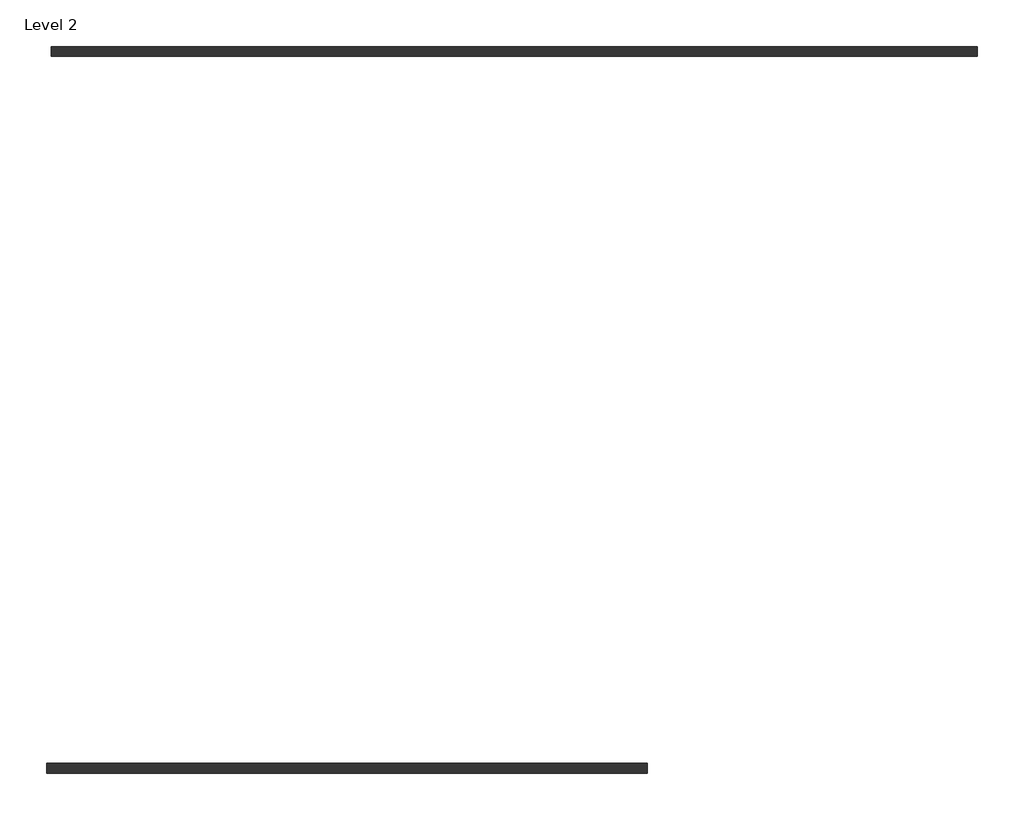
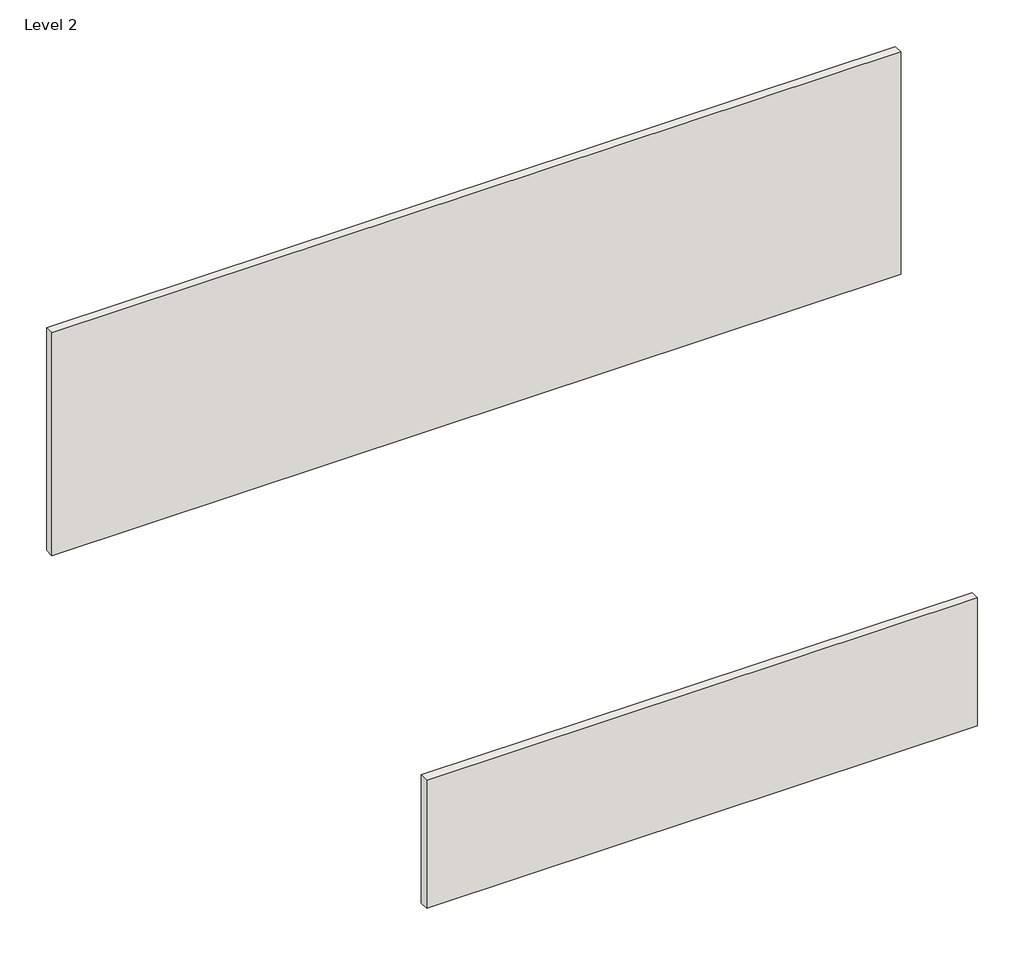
# One storey: 2 walls.
"""IFC4 building model written with IfcOpenShell, lengths in millimetres."""

import ifcopenshell
import ifcopenshell.guid

model = None  # the IFC model being written
_history = None  # IfcOwnerHistory: only IFC2X3 demands one
_inside = {}  # id of a spatial element -> (the spatial element, [elements in it])
_under = {}  # id of a project, library or spatial element -> (it, [spatial elements below it])
_declared = {}  # id of a project -> (the project, [libraries it declares])
_typed = {}  # id of a type object -> (the type object, [elements of that type])
_made_of = {}  # id of a material, layer set ... -> (it, [elements and type objects made of it])


def new_model(schema):
    """Start an empty IFC model of exactly this schema.

    Asked for "IFC4X3", IfcOpenShell would pick the latest addendum, in which some entities
    have other attributes; the version numbers below select the first issue.
    IFC2X3 requires an IfcOwnerHistory on every rooted entity: one is made here for all.
    """
    global model, _history
    if schema == "IFC4X3":
        model = ifcopenshell.file(schema_version=(4, 3, 0, 0))
    else:
        model = ifcopenshell.file(schema=schema)
    _inside.clear()
    _under.clear()
    _declared.clear()
    _typed.clear()
    _made_of.clear()
    _history = None
    if model.schema == "IFC2X3":
        org = make("IfcOrganization", Name="unknown")
        user = make(
            "IfcPersonAndOrganization",
            ThePerson=make("IfcPerson", FamilyName="unknown"),
            TheOrganization=org,
        )
        app = make(
            "IfcApplication",
            ApplicationDeveloper=org,
            Version="unknown",
            ApplicationFullName="unknown",
            ApplicationIdentifier="unknown",
        )
        _history = make(
            "IfcOwnerHistory",
            OwningUser=user,
            OwningApplication=app,
            ChangeAction="ADDED",
            CreationDate=0,
        )
    return model


def make(cls, **values):
    """One entity of the class cls with the attributes given. An attribute that is None is left unset."""
    return model.create_entity(
        cls, **{name: value for name, value in values.items() if value is not None}
    )


def rooted(cls, **values):
    """An entity with a GlobalId (a new one), such as an element, a storey or a relation."""
    return make(cls, GlobalId=ifcopenshell.guid.new(), OwnerHistory=_history, **values)


def si_unit(unit_type, name, prefix=None):
    """IfcSIUnit, for example si_unit("LENGTHUNIT", "METRE", prefix="MILLI")."""
    return make("IfcSIUnit", UnitType=unit_type, Prefix=prefix, Name=name)


def assignment(units):
    """IfcUnitAssignment: the units of a project."""
    return None if units is None else make("IfcUnitAssignment", Units=units)


def point(xyz):
    """IfcCartesianPoint."""
    return None if xyz is None else make("IfcCartesianPoint", Coordinates=xyz)


def direction(xyz):
    """IfcDirection."""
    return None if xyz is None else make("IfcDirection", DirectionRatios=xyz)


def frame(location, z_axis=None, x_axis=None):
    """IfcAxis2Placement3D, a coordinate frame: its origin and axes. An axis left out is left unset."""
    return make(
        "IfcAxis2Placement3D",
        Location=point(location),
        Axis=direction(z_axis),
        RefDirection=direction(x_axis),
    )


def origin():
    """The frame at (0, 0, 0) with its axes left unset."""
    return frame((0.0, 0.0, 0.0))


def place(relative_to, where):
    """IfcLocalPlacement: puts the frame where relative to a parent placement (None: the world)."""
    return make(
        "IfcLocalPlacement", PlacementRelTo=relative_to, RelativePlacement=where
    )


def context(
    kind, dimensions, precision=None, world=None, true_north=None, identifier=None
):
    """IfcGeometricRepresentationContext, for example the 3D "Model" context."""
    return make(
        "IfcGeometricRepresentationContext",
        ContextIdentifier=identifier,
        ContextType=kind,
        CoordinateSpaceDimension=dimensions,
        Precision=precision,
        WorldCoordinateSystem=world,
        TrueNorth=true_north,
    )


def project(units=None, contexts=None):
    """IfcProject with its units and contexts."""
    return rooted(
        "IfcProject",
        Name="project",
        RepresentationContexts=contexts,
        UnitsInContext=assignment(units),
    )


def spatial(cls, under=None, at=None, **own):
    """A site, building, storey or space (cls), placed at a placement, below another one or the project."""
    s = rooted(cls, ObjectPlacement=at, **own)
    if under is not None:
        _under.setdefault(under.id(), (under, []))[1].append(s)
    return s


def faces_of(points, faces, orient=None, outer=None):
    """IfcFace entities. A face is a list of loops; a loop is a list of indices into points, from 0.

    orient and outer hold one flag for each loop. By default every Orientation is true, the
    first loop of a face is its IfcFaceOuterBound and the others are IfcFaceBound.
    """
    made = []
    for i, loops in enumerate(faces):
        bounds = []
        for j, loop in enumerate(loops):
            is_outer = j == 0 if outer is None else outer[i][j]
            bounds.append(
                make(
                    "IfcFaceOuterBound" if is_outer else "IfcFaceBound",
                    Bound=make("IfcPolyLoop", Polygon=[points[k] for k in loop]),
                    Orientation=True if orient is None else orient[i][j],
                )
            )
        made.append(make("IfcFace", Bounds=bounds))
    return made


def faceted_brep(points, faces, orient=None, outer=None, voids=None):
    """IfcFacetedBrep: a solid bounded by flat faces; with voids (closed shells), ...WithVoids."""
    shared = [point(p) for p in points]
    hull = make("IfcClosedShell", CfsFaces=faces_of(shared, faces, orient, outer))
    if voids is None:
        return make("IfcFacetedBrep", Outer=hull)
    return make(
        "IfcFacetedBrepWithVoids",
        Outer=hull,
        Voids=[
            make(cls, CfsFaces=faces_of(shared, fs, o, b)) for cls, fs, o, b in voids
        ],
    )


def shape(context_of_items, identifier, shape_type, items):
    """IfcShapeRepresentation: the items that make up one representation, for example the "Body"."""
    return make(
        "IfcShapeRepresentation",
        ContextOfItems=context_of_items,
        RepresentationIdentifier=identifier,
        RepresentationType=shape_type,
        Items=items,
    )


def made_of(thing, what):
    """Note that an element or type object is made of a material, layer set ...; save() writes the relation."""
    if what is not None:
        _made_of.setdefault(what.id(), (what, []))[1].append(thing)
    return thing


def element(
    cls,
    number,
    at=None,
    inside=None,
    cuts=None,
    type_object=None,
    material=None,
    context=None,
    identifier="Body",
    shape_type=None,
    held_by="IfcProductDefinitionShape",
    body=None,
    shapes=None,
    **own,
):
    """One element of the class cls, such as IfcWall. Its Tag is "e" and its number.

    at: its placement. inside: the storey or other place that contains it. cuts: it is an
    opening in that element (IfcRelVoidsElement). A single representation is given by context,
    identifier, shape_type and body (its items); several are given by shapes. held_by: the class
    of the entity that holds the representations. save() writes the other relations.
    """
    e = rooted(cls, Tag="e%d" % number, ObjectPlacement=at, **own)
    if body is not None:
        shapes = [shape(context, identifier, shape_type, body)]
    if shapes is not None:
        e.Representation = make(held_by, Representations=shapes)
    if inside is not None:
        _inside.setdefault(inside.id(), (inside, []))[1].append(e)
    if cuts is not None:
        rooted(
            "IfcRelVoidsElement", RelatingBuildingElement=cuts, RelatedOpeningElement=e
        )
    if type_object is not None:
        _typed.setdefault(type_object.id(), (type_object, []))[1].append(e)
    return made_of(e, material)


def aggregate(whole, parts):
    """IfcRelAggregates: a whole, such as a stair, and the parts it consists of."""
    return rooted("IfcRelAggregates", RelatingObject=whole, RelatedObjects=parts)


def save(model, path):
    """Write the relations noted so far, then the file.

    IfcRelAggregates (storeys below a building ...), IfcRelContainedInSpatialStructure (elements
    in a storey), IfcRelDefinesByType, IfcRelAssociatesMaterial and IfcRelDeclares: one each for
    every whole, place, type object, material and project.
    """
    for whole, parts in _under.values():
        aggregate(whole, parts)
    for where, things in _inside.values():
        rooted(
            "IfcRelContainedInSpatialStructure",
            RelatedElements=things,
            RelatingStructure=where,
        )
    for kind, things in _typed.values():
        rooted("IfcRelDefinesByType", RelatedObjects=things, RelatingType=kind)
    for what, things in _made_of.values():
        rooted("IfcRelAssociatesMaterial", RelatedObjects=things, RelatingMaterial=what)
    for by, libraries in _declared.values():
        rooted("IfcRelDeclares", RelatingContext=by, RelatedDefinitions=libraries)
    model.write(path)


model = new_model("IFC4")

# Units and contexts
model_context = context("Model", 3, world=origin())
ifc_project = project(units=[si_unit("LENGTHUNIT", "METRE", prefix="MILLI")], contexts=[model_context])

# Site, building, storey
site = spatial("IfcSite", under=ifc_project)
building = spatial("IfcBuilding", under=site)
storey = spatial("IfcBuildingStorey", under=building, Name="Level 2", Elevation=3048.0)

# Walls
placement = place(None, origin())
element("IfcWall", 1, ObjectType="Generic - 8\"", at=placement, inside=storey, context=model_context, shape_type="Brep", body=[
    faceted_brep([(-13677.9019194, 8679.919631, 3048.0), (5321.2980806, 8679.919631, 3048.0), (5422.8980806, 8679.919631, 3048.0), (5422.8980806, 8679.919631, 8345.7318304), (-13677.9019194, 8679.919631, 8345.7318304), (-13677.9019194, 8883.119631, 3048.0), (-13677.9019194, 8883.119631, 3657.6), (-13677.9019194, 8883.119631, 8345.7318304), (5422.8980806, 8883.119631, 8345.7318304), (5422.8980806, 8883.119631, 3048.0), (5321.2980806, 8883.119631, 3048.0)], [[[0, 1, 2, 3, 4]], [[5, 6, 7, 8, 9, 10]], [[2, 1, 0, 5, 10, 9]], [[3, 2, 9, 8]], [[4, 3, 8, 7]], [[0, 4, 7, 6, 5]]]),
])
element("IfcWall", 2, ObjectType="Generic - 8\"", at=placement, inside=storey, context=model_context, shape_type="Brep", body=[
    faceted_brep([(-13779.5019194, -6102.880369, 3657.6), (-13677.9019194, -6102.880369, 3657.6), (-1384.3019194, -6102.880369, 3657.6), (-1384.3019194, -6102.880369, 4572.0), (-1384.3019194, -6102.880369, 6705.6), (-13779.5019194, -6102.880369, 6705.6), (-13779.5019194, -5899.680369, 3657.6), (-13779.5019194, -5899.680369, 6705.6), (-1384.3019194, -5899.680369, 6705.6), (-1384.3019194, -5899.680369, 3657.6), (-13677.9019194, -5899.680369, 3657.6)], [[[0, 1, 2, 3, 4, 5]], [[6, 7, 8, 9, 10]], [[2, 1, 0, 6, 10, 9]], [[5, 4, 8, 7]], [[0, 5, 7, 6]], [[4, 3, 2, 9, 8]]]),
])

save(model, "model.ifc")
